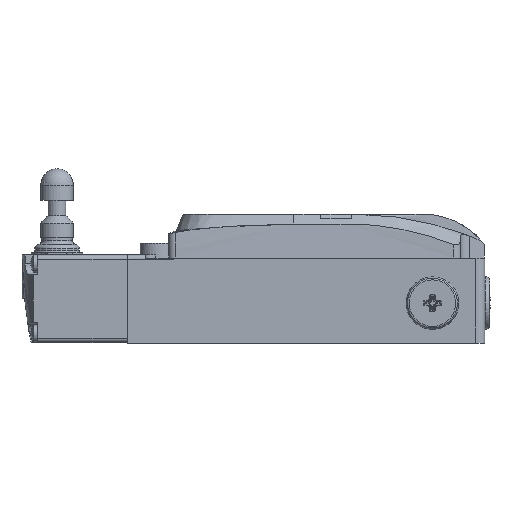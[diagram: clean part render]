
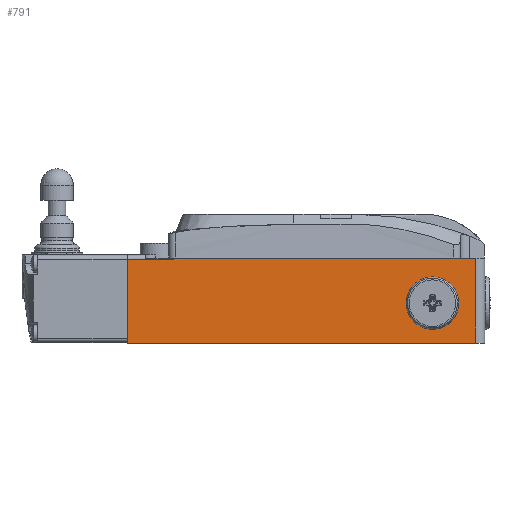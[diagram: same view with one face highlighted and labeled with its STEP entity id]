
A CAD part, left-side view. The second image highlights one B-rep face of the part: STEP entity #791.
In plain terms, the highlighted planar face has unit normal (-1, 0, 0).
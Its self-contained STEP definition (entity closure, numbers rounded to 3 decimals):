
#359=FACE_BOUND('',#1938,.T.);
#360=FACE_BOUND('',#1939,.T.);
#791=ADVANCED_FACE('NONE',(#359,#360),#1232,.F.);
#1232=PLANE('',#8232);
#1938=EDGE_LOOP('',(#3280));
#1939=EDGE_LOOP('',(#3281,#3282,#3283,#3284,#3285,#3286));
#2487=CIRCLE('',#8231,12.);
#3280=ORIENTED_EDGE('',*,*,#5994,.F.);
#3281=ORIENTED_EDGE('',*,*,#5993,.T.);
#3282=ORIENTED_EDGE('',*,*,#5981,.F.);
#3283=ORIENTED_EDGE('',*,*,#5995,.F.);
#3284=ORIENTED_EDGE('',*,*,#5996,.T.);
#3285=ORIENTED_EDGE('',*,*,#5988,.T.);
#3286=ORIENTED_EDGE('',*,*,#5997,.F.);
#5184=VERTEX_POINT('',#11775);
#5189=VERTEX_POINT('',#11784);
#5194=VERTEX_POINT('',#11800);
#5195=VERTEX_POINT('',#11801);
#5198=VERTEX_POINT('',#11809);
#5199=VERTEX_POINT('',#11813);
#5200=VERTEX_POINT('',#11815);
#5981=EDGE_CURVE('NONE',#5189,#5184,#6999,.T.);
#5988=EDGE_CURVE('NONE',#5194,#5195,#7004,.T.);
#5993=EDGE_CURVE('NONE',#5198,#5184,#7006,.T.);
#5994=EDGE_CURVE('',#5199,#5199,#2487,.T.);
#5995=EDGE_CURVE('NONE',#5200,#5189,#7007,.T.);
#5996=EDGE_CURVE('NONE',#5200,#5194,#7008,.T.);
#5997=EDGE_CURVE('NONE',#5198,#5195,#7009,.T.);
#6999=LINE('',#11785,#7587);
#7004=LINE('',#11799,#7592);
#7006=LINE('',#11810,#7594);
#7007=LINE('',#11814,#7595);
#7008=LINE('',#11816,#7596);
#7009=LINE('',#11817,#7597);
#7587=VECTOR('',#9457,1.);
#7592=VECTOR('',#9472,1.);
#7594=VECTOR('',#9482,1.);
#7595=VECTOR('',#9487,1.);
#7596=VECTOR('',#9488,1.);
#7597=VECTOR('',#9489,1.);
#8231=AXIS2_PLACEMENT_3D('',#11812,#9485,#9486);
#8232=AXIS2_PLACEMENT_3D('',#11818,#9490,#9491);
#9457=DIRECTION('',(0.,-1.,0.));
#9472=DIRECTION('',(0.,0.,1.));
#9482=DIRECTION('',(0.,0.,-1.));
#9485=DIRECTION('',(-1.,0.,0.));
#9486=DIRECTION('',(0.,1.,0.));
#9487=DIRECTION('',(0.,0.,1.));
#9488=DIRECTION('',(0.,-1.,0.));
#9489=DIRECTION('',(0.,-1.,0.));
#9490=DIRECTION('',(1.,0.,0.));
#9491=DIRECTION('',(0.,0.,1.));
#11775=CARTESIAN_POINT('',(-20.,142.2,18.));
#11784=CARTESIAN_POINT('',(-20.,163.3,18.));
#11785=CARTESIAN_POINT('',(-20.,154.9,18.));
#11799=CARTESIAN_POINT('',(-20.,4.,-20.3));
#11800=CARTESIAN_POINT('',(-20.,4.,-20.3));
#11801=CARTESIAN_POINT('',(-20.,4.,18.5));
#11809=CARTESIAN_POINT('',(-20.,142.2,18.5));
#11810=CARTESIAN_POINT('',(-20.,142.2,25.7));
#11812=CARTESIAN_POINT('',(-20.,23.9,-2.));
#11813=CARTESIAN_POINT('',(-20.,35.9,-2.));
#11814=CARTESIAN_POINT('',(-20.,163.3,-20.3));
#11815=CARTESIAN_POINT('',(-20.,163.3,-20.3));
#11816=CARTESIAN_POINT('',(-20.,4.,-20.3));
#11817=CARTESIAN_POINT('',(-20.,4.,18.5));
#11818=CARTESIAN_POINT('',(-20.,4.,-20.3));
